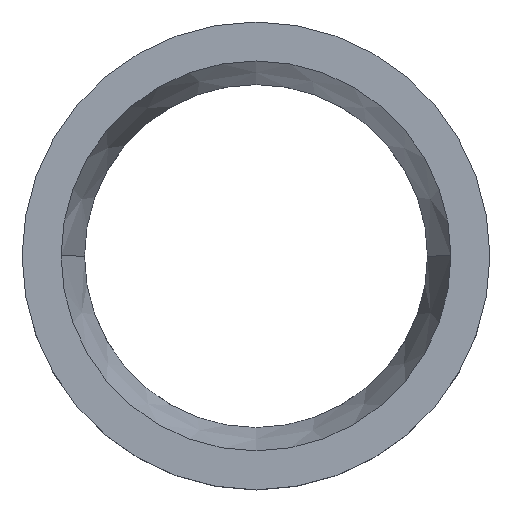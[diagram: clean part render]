
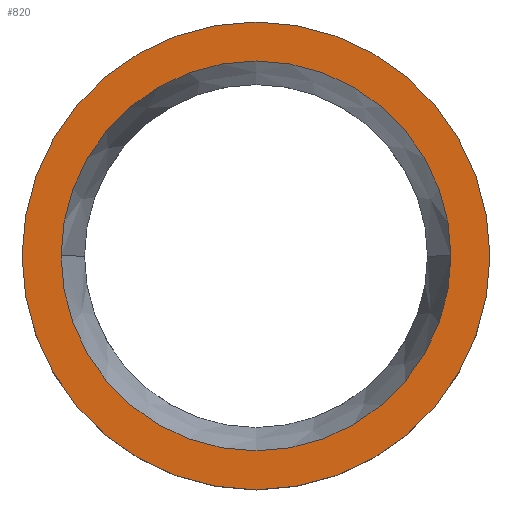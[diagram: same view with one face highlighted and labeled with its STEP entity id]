
A CAD part, top view. The second image highlights one B-rep face of the part: STEP entity #820.
In plain terms, the highlighted planar face has unit normal (0, 0, 1).
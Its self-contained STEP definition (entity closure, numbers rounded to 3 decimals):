
#125=CARTESIAN_POINT('',(0.,0.,29.));
#126=DIRECTION('',(0.,0.,1.));
#127=DIRECTION('',(1.,0.,0.));
#128=AXIS2_PLACEMENT_3D('',#125,#126,#127);
#130=CARTESIAN_POINT('',(0.,0.,29.));
#131=DIRECTION('',(0.,0.,1.));
#132=DIRECTION('',(-1.,0.,0.));
#133=AXIS2_PLACEMENT_3D('',#130,#131,#132);
#135=CARTESIAN_POINT('',(0.,0.,
29.));
#136=DIRECTION('',(0.,0.,-1.));
#137=DIRECTION('',(1.,0.,0.));
#138=AXIS2_PLACEMENT_3D('',#135,#136,#137);
#140=CARTESIAN_POINT('',(0.,0.,29.));
#141=DIRECTION('',(0.,0.,-1.));
#142=DIRECTION('',(-1.,0.,0.));
#143=AXIS2_PLACEMENT_3D('',#140,#141,#142);
#515=CARTESIAN_POINT('',(60.,0.,29.));
#516=CARTESIAN_POINT('',(-60.,0.,29.));
#517=VERTEX_POINT('',#515);
#518=VERTEX_POINT('',#516);
#519=CARTESIAN_POINT('',(50.,0.,
29.));
#520=CARTESIAN_POINT('',(-50.,0.,29.));
#521=VERTEX_POINT('',#519);
#522=VERTEX_POINT('',#520);
#805=CARTESIAN_POINT('',(0.,0.,29.));
#806=DIRECTION('',(0.,0.,1.));
#807=DIRECTION('',(1.,0.,0.));
#808=AXIS2_PLACEMENT_3D('',#805,#806,#807);
#809=PLANE('',#808);
#811=ORIENTED_EDGE('',*,*,#810,.F.);
#813=ORIENTED_EDGE('',*,*,#812,.F.);
#814=EDGE_LOOP('',(#811,#813));
#815=FACE_OUTER_BOUND('',#814,.F.);
#816=ORIENTED_EDGE('',*,*,#785,.F.);
#817=ORIENTED_EDGE('',*,*,#799,.F.);
#818=EDGE_LOOP('',(#816,#817));
#819=FACE_BOUND('',#818,.F.);
#129=CIRCLE('',#128,60.);
#134=CIRCLE('',#133,60.);
#139=CIRCLE('',#138,50.);
#144=CIRCLE('',#143,50.);
#785=EDGE_CURVE('',#521,#522,#139,.T.);
#799=EDGE_CURVE('',#522,#521,#144,.T.);
#810=EDGE_CURVE('',#517,#518,#129,.T.);
#812=EDGE_CURVE('',#518,#517,#134,.T.);
#820=ADVANCED_FACE('',(#815,#819),#809,.T.);
